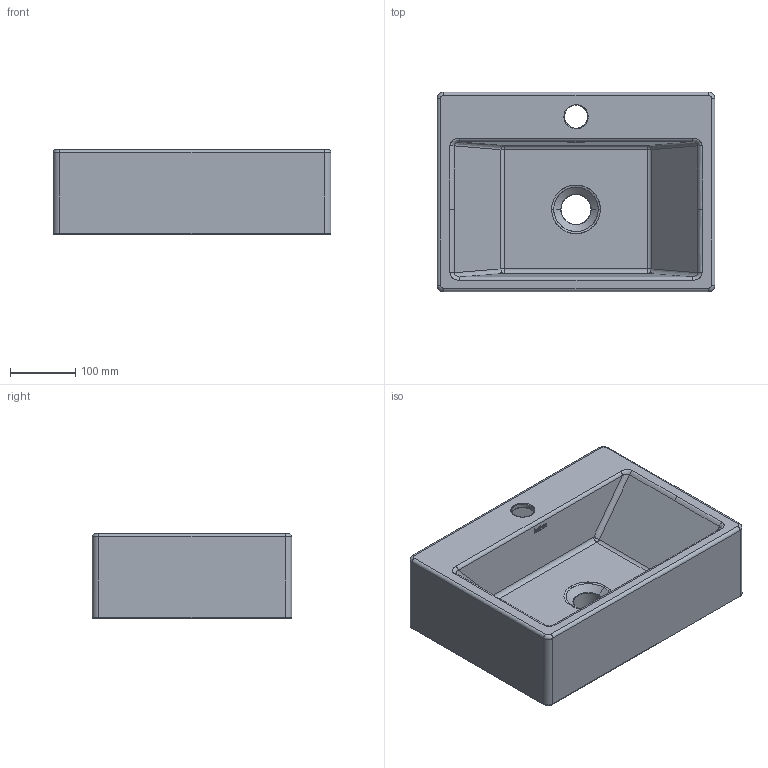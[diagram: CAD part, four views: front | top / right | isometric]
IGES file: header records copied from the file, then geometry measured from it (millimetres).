
Global section: file name: C:\Users\User\Desktop\0037 Gerona.igs; native system: Rhinoceros ( Feb 26 2015 ); preprocessor: Trout Lake IGES 012 Feb 26 2015; date: 200907.152400; units: millimetre
Bounding box: 425 x 305 x 130 mm (x, y, z)
Surface area: 743258.6 mm2 (no closed solid volume)
Topology: 0 solids, 0 shells, 186 faces, 1207 edges, 1202 vertices
Faces by surface type: bspline 186
